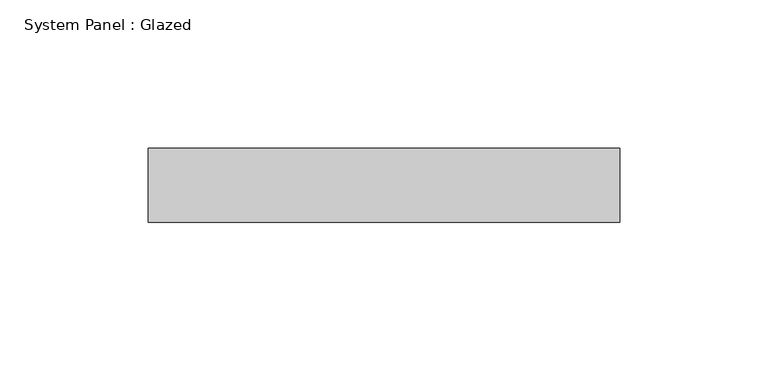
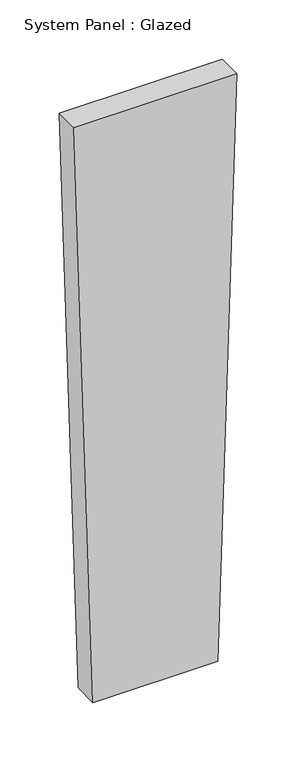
"""IFC4 building model written with IfcOpenShell, lengths in millimetres: plate geometry, System Panel : Glazed."""

from ifc_helpers import new_model, si_unit, frame, origin, place, context, project, spatial, polyline, outline, extrude, source, transform, mapped, element, save


def system_panel_glazed_54b3e10f(model_context):
    return source(origin(), model_context, "Body", "SweptSolid", [
        extrude(outline(polyline([(0.0, -60.9674319), (0.0, 60.9674319), (599.7132467, 79.5152554), (599.7132467, -79.5152554), (0.0, -60.9674319)])), frame((0.0, 24.5, 0.0), z_axis=(0.0, 1.0, 0.0), x_axis=(0.0, 0.0, 1.0)), (0.0, 0.0, 1.0), 25.0),
    ])


if __name__ == "__main__":
    model = new_model("IFC4")
    model_context = context("Model", 3, world=origin())
    ifc_project = project(units=[si_unit("LENGTHUNIT", "METRE", prefix="MILLI")], contexts=[model_context])
    site = spatial("IfcSite", under=ifc_project)
    building = spatial("IfcBuilding", under=site)
    placement = place(None, origin())
    system_panel_glazed_shape = system_panel_glazed_54b3e10f(model_context)
    element("IfcPlate", 1, ObjectType="System Panel : Glazed", at=placement, inside=building, context=model_context, shape_type="MappedRepresentation", body=[
        mapped(system_panel_glazed_shape, transform((0.0, 0.0, 0.0), x_axis=(1.0, 0.0, 0.0), y_axis=(0.0, 1.0, 0.0), z_axis=(0.0, 0.0, 1.0))),
    ])
    save(model, "model.ifc")
